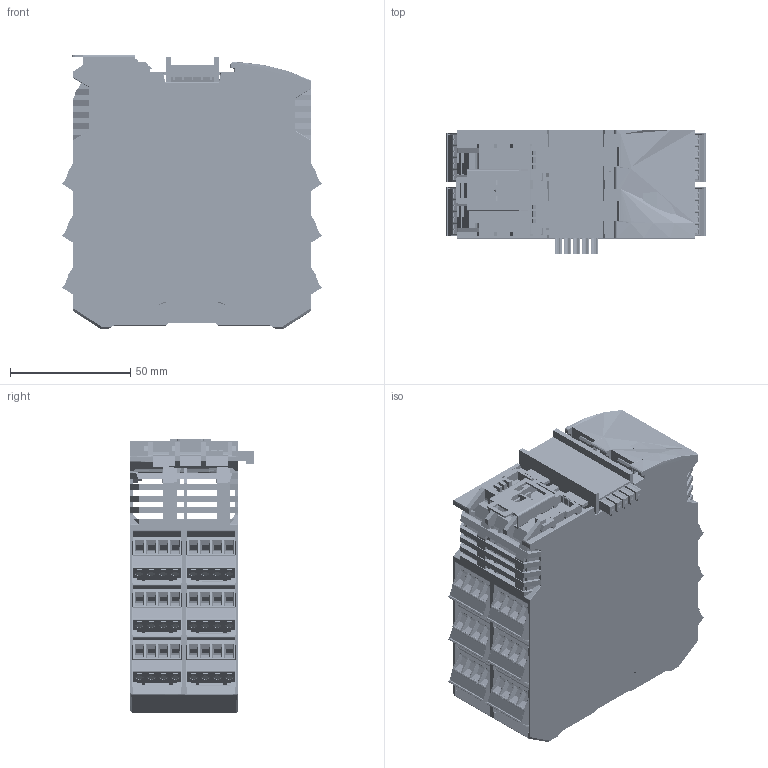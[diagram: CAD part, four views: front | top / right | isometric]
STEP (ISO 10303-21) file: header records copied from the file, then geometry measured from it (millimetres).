
FILE_DESCRIPTION(('STEP AP214'), '1');
FILE_NAME('äëÿ ñòåïêÓÀè NLS-8RS485-Ethernet-2P-PoE', '2026-06-05T11:58:46', (''), (''), 'C3D Converter', 'C3D Toolkit', '');
FILE_SCHEMA(('AUTOMOTIVE_DESIGN { 1 0 10303 214 3 1 1}'));
Length unit declared in the file: millimetre
Bounding box: 107.97 x 51.8 x 114.2 mm (x, y, z)
Topology: 85 solids, 100 shells, 20947 faces, 59581 edges, 39097 vertices
Faces by surface type: plane 14255, extrusion 3122, cylinder 2949, torus 231, cone 191, sphere 117, bspline 60, revolution 22
Full cylindrical faces by diameter (mm): 0.6 x4, 0.8 x10, 1 x2, 1.4 x48, 1.5 x47, 1.6 x21, 2 x26, 2.5 x1, 2.8 x25, 3 x64, 3.1 x48, 4 x96, 4.5 x1
Entity records: 882060 total; most frequent: CARTESIAN_POINT 184327, ORIENTED_EDGE 117525, DIRECTION 94496, EDGE_CURVE 58775, VECTOR 47744, LINE 44622, VERTEX_POINT 39088, AXIS2_PLACEMENT_3D 23365
